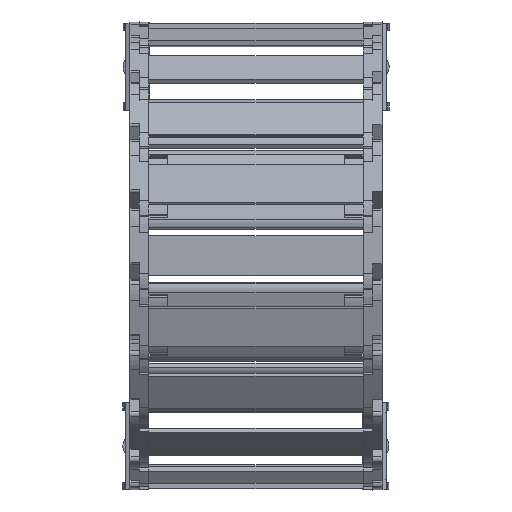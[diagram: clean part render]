
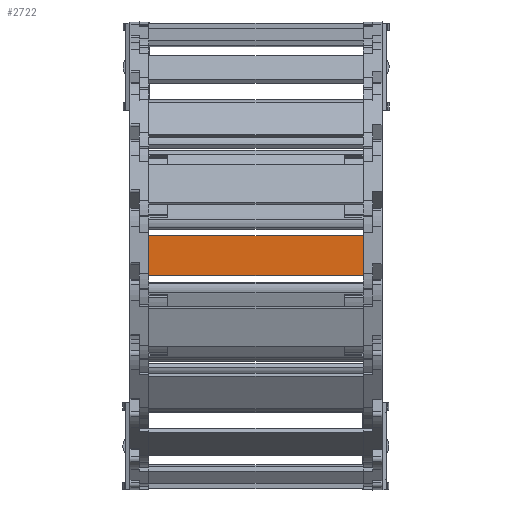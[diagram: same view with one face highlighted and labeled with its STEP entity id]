
A CAD part, top view. The second image highlights one B-rep face of the part: STEP entity #2722.
In plain terms, the highlighted planar face has unit normal (0, 0, 1) as drawn and (0, 1, 0) by its records, which use the part's own axes.
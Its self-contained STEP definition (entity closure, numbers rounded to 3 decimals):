
#2405=DIRECTION('',(0.,0.,1.));
#2406=VECTOR('',#2405,15.8);
#2407=CARTESIAN_POINT('',(70.14,1.5,-7.9));
#2408=LINE('',#2407,#2406);
#2409=DIRECTION('',(-1.,0.,0.));
#2410=VECTOR('',#2409,84.9);
#2411=CARTESIAN_POINT('',(70.14,1.5,7.9));
#2412=LINE('',#2411,#2410);
#2413=DIRECTION('',(0.,0.,-1.));
#2414=VECTOR('',#2413,15.8);
#2415=CARTESIAN_POINT('',(-14.76,1.5,7.9));
#2416=LINE('',#2415,#2414);
#2421=DIRECTION('',(-1.,0.,0.));
#2422=VECTOR('',#2421,84.9);
#2423=CARTESIAN_POINT('',(70.14,1.5,-7.9));
#2424=LINE('',#2423,#2422);
#2529=CARTESIAN_POINT('',(70.14,1.5,-7.9));
#2530=CARTESIAN_POINT('',(70.14,1.5,7.9));
#2531=VERTEX_POINT('',#2529);
#2532=VERTEX_POINT('',#2530);
#2533=CARTESIAN_POINT('',(-14.76,1.5,7.9));
#2534=VERTEX_POINT('',#2533);
#2535=CARTESIAN_POINT('',(-14.76,1.5,-7.9));
#2536=VERTEX_POINT('',#2535);
#2710=CARTESIAN_POINT('',(101.88,1.5,10.061));
#2711=DIRECTION('',(0.,-1.,0.));
#2712=DIRECTION('',(0.,0.,-1.));
#2713=AXIS2_PLACEMENT_3D('',#2710,#2711,#2712);
#2714=PLANE('',#2713);
#2715=ORIENTED_EDGE('',*,*,#2628,.T.);
#2716=ORIENTED_EDGE('',*,*,#2661,.T.);
#2717=ORIENTED_EDGE('',*,*,#2681,.T.);
#2719=ORIENTED_EDGE('',*,*,#2718,.F.);
#2720=EDGE_LOOP('',(#2715,#2716,#2717,#2719));
#2721=FACE_OUTER_BOUND('',#2720,.F.);
#2722=ADVANCED_FACE('',(#2721),#2714,.F.);
#2628=EDGE_CURVE('',#2531,#2532,#2408,.T.);
#2661=EDGE_CURVE('',#2532,#2534,#2412,.T.);
#2681=EDGE_CURVE('',#2534,#2536,#2416,.T.);
#2718=EDGE_CURVE('',#2531,#2536,#2424,.T.);
